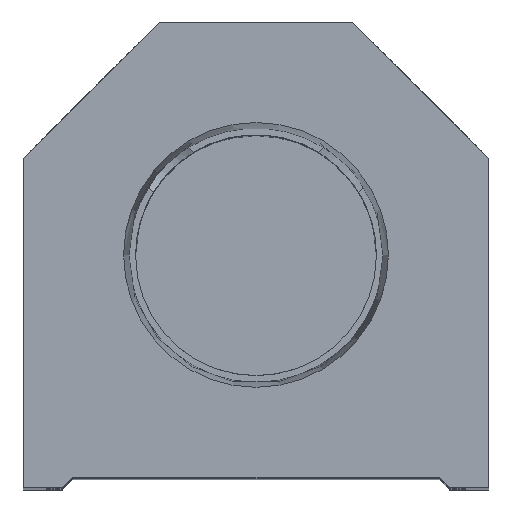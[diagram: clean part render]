
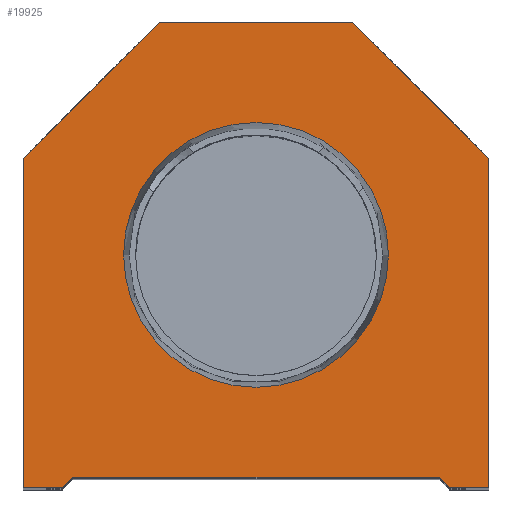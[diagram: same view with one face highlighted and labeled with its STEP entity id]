
A CAD part, top view. The second image highlights one B-rep face of the part: STEP entity #19925.
In plain terms, the highlighted planar face has unit normal (0, 0, 1).
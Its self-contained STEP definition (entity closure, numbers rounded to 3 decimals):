
#102 = ORIENTED_EDGE ( 'NONE', *, *, #6406, .T. ) ;
#387 = ORIENTED_EDGE ( 'NONE', *, *, #14746, .T. ) ;
#477 = DIRECTION ( 'NONE',  ( 0.707, 0.707, 0. ) ) ;
#647 = CARTESIAN_POINT ( 'NONE',  ( 12.647, 22.25, 0. ) ) ;
#1112 = AXIS2_PLACEMENT_3D ( 'NONE', #6503, #7942, #13872 ) ;
#1550 = EDGE_LOOP ( 'NONE', ( #3602, #8930, #7243, #5205, #4216, #13484, #102, #387, #8629, #17959 ) ) ;
#1704 = CARTESIAN_POINT ( 'NONE',  ( -22.25, 31.5, 0. ) ) ;
#2327 = DIRECTION ( 'NONE',  ( 0., 1., 0. ) ) ;
#2432 = EDGE_CURVE ( 'NONE', #18190, #8069, #15921, .T. ) ;
#2454 = VECTOR ( 'NONE', #477, 1000. ) ;
#2809 = LINE ( 'NONE', #18292, #8091 ) ;
#2855 = CARTESIAN_POINT ( 'NONE',  ( 17.5, 1., 0. ) ) ;
#2892 = VECTOR ( 'NONE', #12871, 1000. ) ;
#3160 = VECTOR ( 'NONE', #19430, 1000. ) ;
#3354 = VERTEX_POINT ( 'NONE', #14813 ) ;
#3602 = ORIENTED_EDGE ( 'NONE', *, *, #7215, .T. ) ;
#3785 = DIRECTION ( 'NONE',  ( 0., -1., 0. ) ) ;
#3894 = VERTEX_POINT ( 'NONE', #15974 ) ;
#4028 = VERTEX_POINT ( 'NONE', #7402 ) ;
#4189 = CARTESIAN_POINT ( 'NONE',  ( -12.647, 22.25, 0. ) ) ;
#4207 = VERTEX_POINT ( 'NONE', #15957 ) ;
#4216 = ORIENTED_EDGE ( 'NONE', *, *, #16115, .T. ) ;
#4692 = DIRECTION ( 'NONE',  ( 1., 0., 0. ) ) ;
#4919 = VERTEX_POINT ( 'NONE', #13498 ) ;
#4947 = ORIENTED_EDGE ( 'NONE', *, *, #8546, .F. ) ;
#5205 = ORIENTED_EDGE ( 'NONE', *, *, #2432, .T. ) ;
#5315 = VERTEX_POINT ( 'NONE', #6324 ) ;
#5406 = EDGE_CURVE ( 'NONE', #5315, #4028, #7328, .T. ) ;
#5526 = CARTESIAN_POINT ( 'NONE',  ( 0., 22.25, 0. ) ) ;
#5557 = LINE ( 'NONE', #8596, #2454 ) ;
#5739 = VECTOR ( 'NONE', #9556, 1000. ) ;
#6260 = VECTOR ( 'NONE', #2327, 1000. ) ;
#6324 = CARTESIAN_POINT ( 'NONE',  ( 22.25, 0., 0. ) ) ;
#6406 = EDGE_CURVE ( 'NONE', #4028, #3354, #13515, .T. ) ;
#6503 = CARTESIAN_POINT ( 'NONE',  ( 0., 22.25, 0. ) ) ;
#7008 = LINE ( 'NONE', #13526, #3160 ) ;
#7147 = DIRECTION ( 'NONE',  ( 1., 0., 0. ) ) ;
#7215 = EDGE_CURVE ( 'NONE', #3894, #4207, #10563, .T. ) ;
#7243 = ORIENTED_EDGE ( 'NONE', *, *, #19987, .T. ) ;
#7328 = LINE ( 'NONE', #16701, #6260 ) ;
#7402 = CARTESIAN_POINT ( 'NONE',  ( 22.25, 31.5, 0. ) ) ;
#7543 = VECTOR ( 'NONE', #20164, 1000. ) ;
#7932 = CARTESIAN_POINT ( 'NONE',  ( 0., 0., 0. ) ) ;
#7942 = DIRECTION ( 'NONE',  ( 0., 0., 1. ) ) ;
#8069 = VERTEX_POINT ( 'NONE', #16450 ) ;
#8091 = VECTOR ( 'NONE', #12482, 1000. ) ;
#8169 = CARTESIAN_POINT ( 'NONE',  ( 9.25, 9.25, 0. ) ) ;
#8198 = CIRCLE ( 'NONE', #11769, 12.647 ) ;
#8216 = VERTEX_POINT ( 'NONE', #14311 ) ;
#8546 = EDGE_CURVE ( 'NONE', #9459, #19589, #14474, .T. ) ;
#8596 = CARTESIAN_POINT ( 'NONE',  ( -9.25, 9.25, 0. ) ) ;
#8629 = ORIENTED_EDGE ( 'NONE', *, *, #14458, .T. ) ;
#8930 = ORIENTED_EDGE ( 'NONE', *, *, #19181, .T. ) ;
#9265 = FACE_BOUND ( 'NONE', #16672, .T. ) ;
#9458 = LINE ( 'NONE', #1704, #7543 ) ;
#9459 = VERTEX_POINT ( 'NONE', #4189 ) ;
#9494 = EDGE_CURVE ( 'NONE', #4919, #3894, #17743, .T. ) ;
#9556 = DIRECTION ( 'NONE',  ( 1., 0., 0. ) ) ;
#10043 = CARTESIAN_POINT ( 'NONE',  ( 22.25, 31.5, 0. ) ) ;
#10563 = LINE ( 'NONE', #13926, #14819 ) ;
#11769 = AXIS2_PLACEMENT_3D ( 'NONE', #5526, #14915, #7147 ) ;
#12219 = DIRECTION ( 'NONE',  ( 0., 0., 1. ) ) ;
#12243 = CARTESIAN_POINT ( 'NONE',  ( -9.25, 44.5, 0. ) ) ;
#12482 = DIRECTION ( 'NONE',  ( 1., 0., 0. ) ) ;
#12871 = DIRECTION ( 'NONE',  ( 0.707, -0.707, 0. ) ) ;
#13484 = ORIENTED_EDGE ( 'NONE', *, *, #5406, .T. ) ;
#13498 = CARTESIAN_POINT ( 'NONE',  ( -22.25, 31.5, 0. ) ) ;
#13515 = LINE ( 'NONE', #10043, #15134 ) ;
#13526 = CARTESIAN_POINT ( 'NONE',  ( 9.25, 44.5, 0. ) ) ;
#13872 = DIRECTION ( 'NONE',  ( 1., 0., 0. ) ) ;
#13926 = CARTESIAN_POINT ( 'NONE',  ( -17.5, 0., 0. ) ) ;
#13967 = FACE_OUTER_BOUND ( 'NONE', #1550, .T. ) ;
#14311 = CARTESIAN_POINT ( 'NONE',  ( -17.5, 1., 0. ) ) ;
#14332 = EDGE_CURVE ( 'NONE', #19589, #9459, #8198, .T. ) ;
#14458 = EDGE_CURVE ( 'NONE', #18903, #4919, #9458, .T. ) ;
#14474 = CIRCLE ( 'NONE', #1112, 12.647 ) ;
#14666 = LINE ( 'NONE', #17710, #5739 ) ;
#14746 = EDGE_CURVE ( 'NONE', #3354, #18903, #7008, .T. ) ;
#14813 = CARTESIAN_POINT ( 'NONE',  ( 9.25, 44.5, 0. ) ) ;
#14819 = VECTOR ( 'NONE', #16776, 1000. ) ;
#14915 = DIRECTION ( 'NONE',  ( 0., 0., 1. ) ) ;
#15126 = ORIENTED_EDGE ( 'NONE', *, *, #14332, .F. ) ;
#15134 = VECTOR ( 'NONE', #17790, 1000. ) ;
#15179 = AXIS2_PLACEMENT_3D ( 'NONE', #7932, #12219, #4692 ) ;
#15921 = LINE ( 'NONE', #8169, #2892 ) ;
#15957 = CARTESIAN_POINT ( 'NONE',  ( -18.5, 0., 0. ) ) ;
#15974 = CARTESIAN_POINT ( 'NONE',  ( -22.25, 0., 0. ) ) ;
#16115 = EDGE_CURVE ( 'NONE', #8069, #5315, #2809, .T. ) ;
#16450 = CARTESIAN_POINT ( 'NONE',  ( 18.5, 0., 0. ) ) ;
#16672 = EDGE_LOOP ( 'NONE', ( #15126, #4947 ) ) ;
#16701 = CARTESIAN_POINT ( 'NONE',  ( 22.25, 0., 0. ) ) ;
#16776 = DIRECTION ( 'NONE',  ( 1., 0., 0. ) ) ;
#17710 = CARTESIAN_POINT ( 'NONE',  ( -17.5, 1., 0. ) ) ;
#17743 = LINE ( 'NONE', #19471, #20034 ) ;
#17790 = DIRECTION ( 'NONE',  ( -0.707, 0.707, 0. ) ) ;
#17959 = ORIENTED_EDGE ( 'NONE', *, *, #9494, .T. ) ;
#18190 = VERTEX_POINT ( 'NONE', #2855 ) ;
#18292 = CARTESIAN_POINT ( 'NONE',  ( 17.5, 0., 0. ) ) ;
#18846 = PLANE ( 'NONE',  #15179 ) ;
#18903 = VERTEX_POINT ( 'NONE', #12243 ) ;
#19181 = EDGE_CURVE ( 'NONE', #4207, #8216, #5557, .T. ) ;
#19430 = DIRECTION ( 'NONE',  ( -1., 0., 0. ) ) ;
#19471 = CARTESIAN_POINT ( 'NONE',  ( -22.25, 0., 0. ) ) ;
#19589 = VERTEX_POINT ( 'NONE', #647 ) ;
#19925 = ADVANCED_FACE ( 'NONE', ( #9265, #13967 ), #18846, .T. ) ;
#19987 = EDGE_CURVE ( 'NONE', #8216, #18190, #14666, .T. ) ;
#20034 = VECTOR ( 'NONE', #3785, 1000. ) ;
#20164 = DIRECTION ( 'NONE',  ( -0.707, -0.707, 0. ) ) ;
